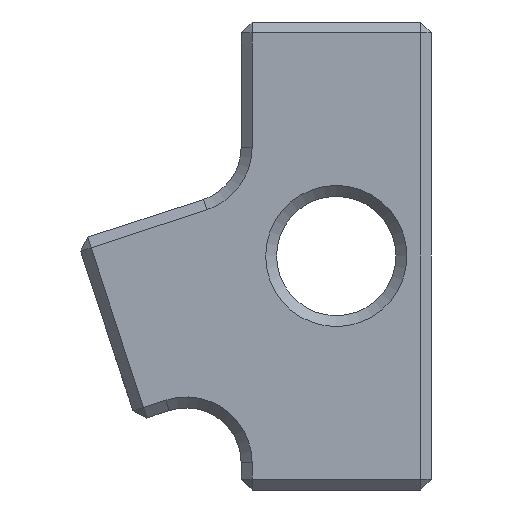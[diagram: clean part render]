
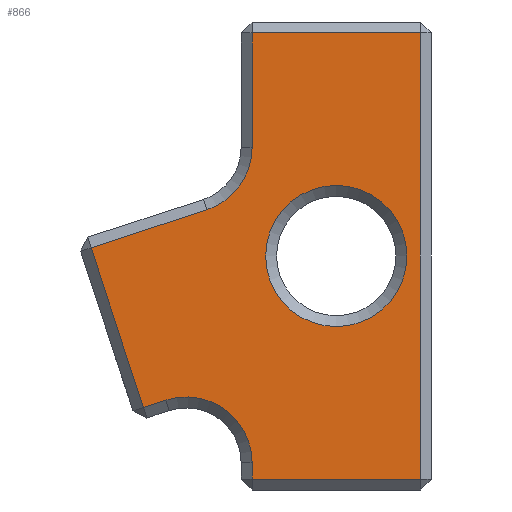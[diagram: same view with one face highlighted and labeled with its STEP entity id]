
A CAD part, front view. The second image highlights one B-rep face of the part: STEP entity #866.
In plain terms, the highlighted planar face has unit normal (0, -1, 0).
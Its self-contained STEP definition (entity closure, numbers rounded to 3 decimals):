
#21=FACE_BOUND('',#137,.T.);
#26=PLANE('',#944);
#74=FACE_OUTER_BOUND('',#136,.T.);
#136=EDGE_LOOP('',(#616,#617,#618,#619,#620,#621,#622,#623,#624,#625));
#137=EDGE_LOOP('',(#626));
#203=LINE('',#1303,#304);
#204=LINE('',#1307,#305);
#205=LINE('',#1309,#306);
#206=LINE('',#1311,#307);
#207=LINE('',#1315,#308);
#208=LINE('',#1317,#309);
#209=LINE('',#1319,#310);
#210=LINE('',#1320,#311);
#304=VECTOR('',#1035,10.);
#305=VECTOR('',#1038,10.);
#306=VECTOR('',#1039,10.);
#307=VECTOR('',#1040,10.);
#308=VECTOR('',#1043,10.);
#309=VECTOR('',#1044,10.);
#310=VECTOR('',#1045,10.);
#311=VECTOR('',#1046,10.);
#404=CIRCLE('',#942,9.65);
#406=CIRCLE('',#945,9.);
#407=CIRCLE('',#946,9.);
#425=VERTEX_POINT('',#1295);
#427=VERTEX_POINT('',#1301);
#428=VERTEX_POINT('',#1302);
#429=VERTEX_POINT('',#1304);
#430=VERTEX_POINT('',#1306);
#431=VERTEX_POINT('',#1308);
#432=VERTEX_POINT('',#1310);
#433=VERTEX_POINT('',#1312);
#434=VERTEX_POINT('',#1314);
#435=VERTEX_POINT('',#1316);
#436=VERTEX_POINT('',#1318);
#490=EDGE_CURVE('',#425,#425,#404,.T.);
#493=EDGE_CURVE('',#427,#428,#203,.T.);
#494=EDGE_CURVE('',#429,#427,#406,.T.);
#495=EDGE_CURVE('',#430,#429,#204,.T.);
#496=EDGE_CURVE('',#431,#430,#205,.T.);
#497=EDGE_CURVE('',#432,#431,#206,.T.);
#498=EDGE_CURVE('',#433,#432,#407,.T.);
#499=EDGE_CURVE('',#434,#433,#207,.T.);
#500=EDGE_CURVE('',#435,#434,#208,.T.);
#501=EDGE_CURVE('',#436,#435,#209,.T.);
#502=EDGE_CURVE('',#428,#436,#210,.T.);
#616=ORIENTED_EDGE('',*,*,#493,.F.);
#617=ORIENTED_EDGE('',*,*,#494,.F.);
#618=ORIENTED_EDGE('',*,*,#495,.F.);
#619=ORIENTED_EDGE('',*,*,#496,.F.);
#620=ORIENTED_EDGE('',*,*,#497,.F.);
#621=ORIENTED_EDGE('',*,*,#498,.F.);
#622=ORIENTED_EDGE('',*,*,#499,.F.);
#623=ORIENTED_EDGE('',*,*,#500,.F.);
#624=ORIENTED_EDGE('',*,*,#501,.F.);
#625=ORIENTED_EDGE('',*,*,#502,.F.);
#626=ORIENTED_EDGE('',*,*,#490,.F.);
#866=ADVANCED_FACE('',(#74,#21),#26,.F.);
#942=AXIS2_PLACEMENT_3D('',#1296,#1028,#1029);
#944=AXIS2_PLACEMENT_3D('',#1300,#1033,#1034);
#945=AXIS2_PLACEMENT_3D('',#1305,#1036,#1037);
#946=AXIS2_PLACEMENT_3D('',#1313,#1041,#1042);
#1028=DIRECTION('center_axis',(0.,-1.,0.));
#1029=DIRECTION('ref_axis',(1.,0.,0.));
#1033=DIRECTION('center_axis',(0.,1.,0.));
#1034=DIRECTION('ref_axis',(1.,0.,0.));
#1035=DIRECTION('',(0.,0.,1.));
#1036=DIRECTION('center_axis',(0.,-1.,0.));
#1037=DIRECTION('ref_axis',(0.81,0.,-0.587));
#1038=DIRECTION('',(0.95,0.,0.311));
#1039=DIRECTION('',(-0.311,0.,0.95));
#1040=DIRECTION('',(-0.95,0.,-0.311));
#1041=DIRECTION('center_axis',(0.,-1.,0.));
#1042=DIRECTION('ref_axis',(0.587,0.,0.81));
#1043=DIRECTION('',(0.,0.,1.));
#1044=DIRECTION('',(-1.,0.,0.));
#1045=DIRECTION('',(0.,0.,-1.));
#1046=DIRECTION('',(1.,0.,0.));
#1295=CARTESIAN_POINT('',(142.43,-26.,173.702));
#1296=CARTESIAN_POINT('Origin',(152.08,-26.,173.702));
#1300=CARTESIAN_POINT('Origin',(152.08,-26.,173.702));
#1301=CARTESIAN_POINT('',(140.58,-26.,188.567));
#1302=CARTESIAN_POINT('',(140.58,-26.,204.198));
#1303=CARTESIAN_POINT('',(140.58,-26.,189.7));
#1304=CARTESIAN_POINT('',(134.376,-26.,180.013));
#1305=CARTESIAN_POINT('Origin',(131.58,-26.,188.567));
#1306=CARTESIAN_POINT('',(118.565,-26.,174.844));
#1307=CARTESIAN_POINT('',(144.026,-26.,183.168));
#1308=CARTESIAN_POINT('',(125.712,-26.,152.983));
#1309=CARTESIAN_POINT('',(120.119,-26.,170.092));
#1310=CARTESIAN_POINT('',(128.783,-26.,153.987));
#1311=CARTESIAN_POINT('',(139.97,-26.,157.644));
#1312=CARTESIAN_POINT('',(140.58,-26.,145.432));
#1313=CARTESIAN_POINT('Origin',(131.58,-26.,145.432));
#1314=CARTESIAN_POINT('',(140.58,-26.,143.214));
#1315=CARTESIAN_POINT('',(140.58,-26.,164.738));
#1316=CARTESIAN_POINT('',(163.58,-26.,143.214));
#1317=CARTESIAN_POINT('',(145.58,-26.,143.214));
#1318=CARTESIAN_POINT('',(163.58,-26.,204.198));
#1319=CARTESIAN_POINT('',(163.58,-26.,157.708));
#1320=CARTESIAN_POINT('',(158.58,-26.,204.198));
